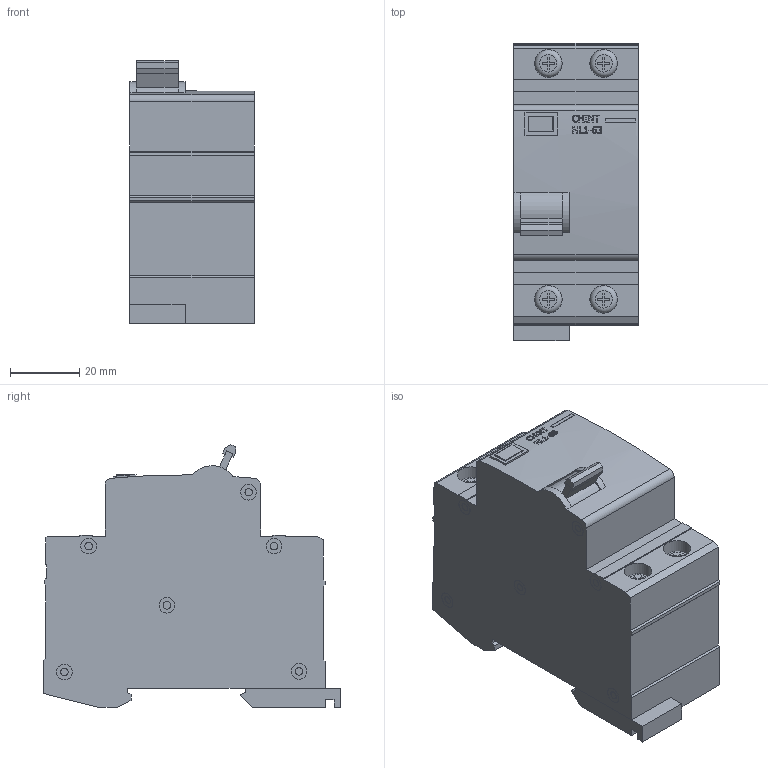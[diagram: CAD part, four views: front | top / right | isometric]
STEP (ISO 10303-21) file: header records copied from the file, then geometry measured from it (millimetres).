
FILE_DESCRIPTION(/* description */ (''),/* implementation_level */ '2;1');
FILE_NAME(/* name */ 'D:\CHINT\NL1-63\Диф. выключатель NL1-63 2P 16A 10mA AC (CHINT).stp',/* time_stamp */ '2017-09-30T15:47:00+04:00',/* author */ ('RSagdiev'),/* organization */ (''),/* preprocessor_version */ 'ST-DEVELOPER v16.5',/* originating_system */ 'Autodesk Inventor 2017',/* authorisation */ '');
FILE_SCHEMA (('AUTOMOTIVE_DESIGN { 1 0 10303 214 3 1 1 }'));
Length unit declared in the file: millimetre
Products named in the file (1): Диф. \X2\0432044B043A043B044E0447043004420435043B044C
\X0\ NL1-63 2P 16A 10mA AC (CHINT)
Bounding box: 36 x 86 x 76.01 mm (x, y, z)
Volume: 163727.1 mm3; surface area: 24812.9 mm2
Topology: 9 solids, 9 shells, 398 faces, 992 edges, 655 vertices
Faces by surface type: plane 280, cylinder 59, bspline 55, torus 4
Full cylindrical faces by diameter (mm): 2.111 x2, 2.171 x2, 2.212 x6, 4.524 x12, 8 x8
Entity records: 12626 total; most frequent: CARTESIAN_POINT 3370, ORIENTED_EDGE 1916, DIRECTION 1730, EDGE_CURVE 958, VERTEX_POINT 655, LINE 654, VECTOR 654, AXIS2_PLACEMENT_3D 538
